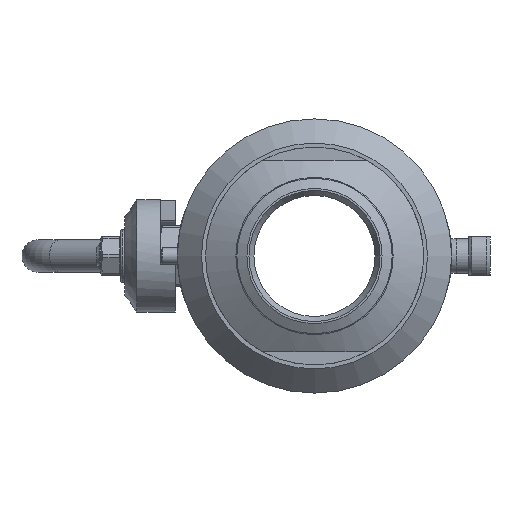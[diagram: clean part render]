
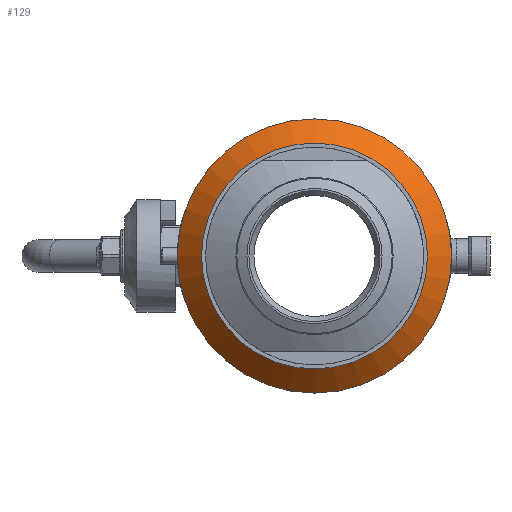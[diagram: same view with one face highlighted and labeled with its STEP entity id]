
A CAD part, left-side view. The second image highlights one B-rep face of the part: STEP entity #129.
In plain terms, the highlighted conical face has half-angle 45 degrees and reference radius 62 mm.
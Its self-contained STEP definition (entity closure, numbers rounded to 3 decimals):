
#129=ADVANCED_FACE('',(#956),#958,.T.);
#956=FACE_OUTER_BOUND('',#957,.T.);
#957=EDGE_LOOP('',(#2067,#2068,#2069,#2070));
#958=CONICAL_SURFACE('',#959,62.,0.785);
#959=AXIS2_PLACEMENT_3D('',#960,#961,#962);
#960=CARTESIAN_POINT('',(-38.,0.,0.));
#961=DIRECTION('',(1.,0.,0.));
#962=DIRECTION('',(0.,1.,0.));
#2067=ORIENTED_EDGE('',*,*,#3198,.T.);
#2068=ORIENTED_EDGE('',*,*,#3199,.T.);
#2069=ORIENTED_EDGE('',*,*,#3198,.F.);
#2070=ORIENTED_EDGE('',*,*,#3173,.F.);
#3173=EDGE_CURVE('',#3536,#3536,#3538,.T.);
#3198=EDGE_CURVE('',#3536,#3579,#3580,.T.);
#3199=EDGE_CURVE('',#3579,#3579,#3581,.T.);
#3536=VERTEX_POINT('',#4806);
#3538=CIRCLE('',#4810,68.);
#3579=VERTEX_POINT('',#5309);
#3580=LINE('',#5310,#5311);
#3581=CIRCLE('',#5313,56.);
#4806=CARTESIAN_POINT('',(-32.,68.,0.));
#4810=AXIS2_PLACEMENT_3D('',#4811,#4812,#4813);
#4811=CARTESIAN_POINT('',(-32.,0.,0.));
#4812=DIRECTION('',(1.,0.,-0.));
#4813=DIRECTION('',(0.,1.,0.));
#5309=CARTESIAN_POINT('',(-44.,56.,0.));
#5310=CARTESIAN_POINT('',(-32.,68.,0.));
#5311=VECTOR('',#5312,1.);
#5312=DIRECTION('',(-0.707,-0.707,0.));
#5313=AXIS2_PLACEMENT_3D('',#5314,#5315,#5316);
#5314=CARTESIAN_POINT('',(-44.,0.,0.));
#5315=DIRECTION('',(1.,0.,-0.));
#5316=DIRECTION('',(0.,1.,0.));
